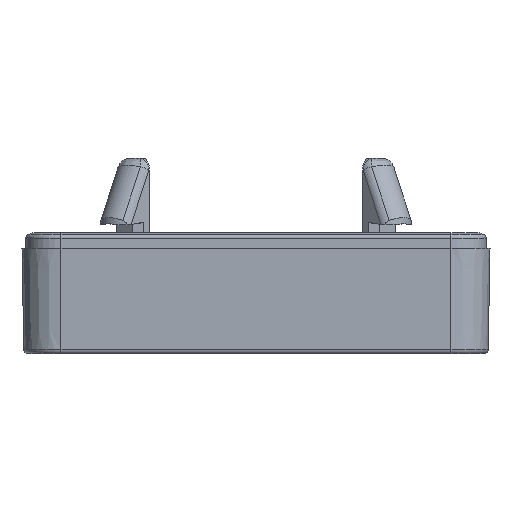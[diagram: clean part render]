
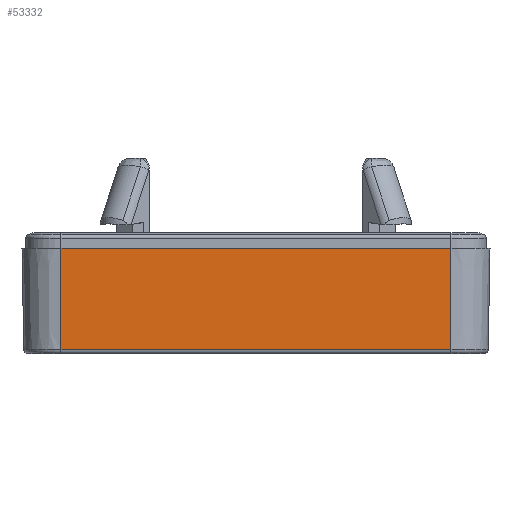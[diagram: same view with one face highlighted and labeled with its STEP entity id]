
A CAD part, left-side view. The second image highlights one B-rep face of the part: STEP entity #53332.
In plain terms, the highlighted planar face has unit normal (-1, 0, -0.018).
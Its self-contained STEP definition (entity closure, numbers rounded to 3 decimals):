
#2295=PLANE('',#57864);
#4565=FACE_OUTER_BOUND('',#7937,.T.);
#7937=EDGE_LOOP('',(#40503,#40504,#40505,#40506));
#13869=LINE('',#89895,#18410);
#13870=LINE('',#89897,#18411);
#13871=LINE('',#89899,#18412);
#13872=LINE('',#89900,#18413);
#18410=VECTOR('',#66236,10.);
#18411=VECTOR('',#66237,10.);
#18412=VECTOR('',#66238,10.);
#18413=VECTOR('',#66239,10.);
#24383=VERTEX_POINT('',#89893);
#24384=VERTEX_POINT('',#89894);
#24385=VERTEX_POINT('',#89896);
#24386=VERTEX_POINT('',#89898);
#30411=EDGE_CURVE('',#24383,#24384,#13869,.T.);
#30412=EDGE_CURVE('',#24385,#24383,#13870,.T.);
#30413=EDGE_CURVE('',#24386,#24385,#13871,.T.);
#30414=EDGE_CURVE('',#24386,#24384,#13872,.T.);
#40503=ORIENTED_EDGE('',*,*,#30411,.F.);
#40504=ORIENTED_EDGE('',*,*,#30412,.F.);
#40505=ORIENTED_EDGE('',*,*,#30413,.F.);
#40506=ORIENTED_EDGE('',*,*,#30414,.T.);
#53332=ADVANCED_FACE('',(#4565),#2295,.F.);
#57864=AXIS2_PLACEMENT_3D('',#89892,#66234,#66235);
#66234=DIRECTION('center_axis',(1.,0.,
0.017));
#66235=DIRECTION('ref_axis',(0.017,0.,-1.));
#66236=DIRECTION('',(0.,1.,0.));
#66237=DIRECTION('',(0.017,0.,-1.));
#66238=DIRECTION('',(0.,-1.,0.));
#66239=DIRECTION('',(0.017,0.,-1.));
#89892=CARTESIAN_POINT('Origin',(-74.,25.,0.));
#89893=CARTESIAN_POINT('',(-73.773,-25.,-13.009));
#89894=CARTESIAN_POINT('',(-73.773,25.,-13.009));
#89895=CARTESIAN_POINT('',(-73.773,19.916,-13.009));
#89896=CARTESIAN_POINT('',(-74.,-25.,0.));
#89897=CARTESIAN_POINT('',(-73.764,-25.,-13.5));
#89898=CARTESIAN_POINT('',(-74.,25.,0.));
#89899=CARTESIAN_POINT('',(-74.,0.,0.));
#89900=CARTESIAN_POINT('',(-73.764,25.,-13.5));
